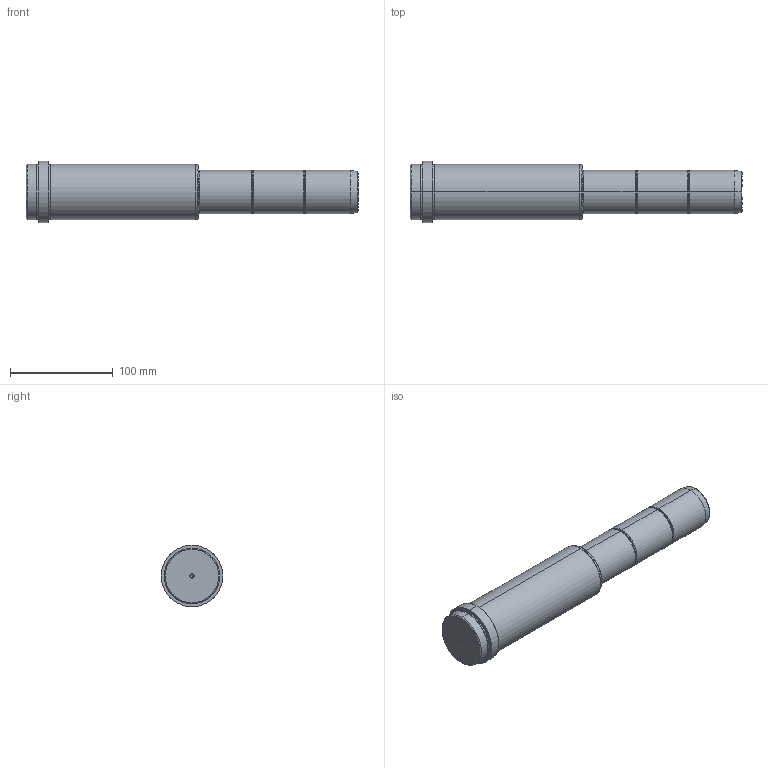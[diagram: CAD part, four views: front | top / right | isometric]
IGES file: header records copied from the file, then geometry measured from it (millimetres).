
Start section: SolidWorks IGES FILE using analytic representation for surfaces
Global section: file name: D:\zzzzz\Delta\D03\42\D03 - 42x156x155.IGS; native system: SolidWorks 2004 by SolidWorks Corporation; preprocessor: Version 5.3; author: Hkn; date: 080327.160659; units: millimetre
Bounding box: 323 x 60 x 60 mm (x, y, z)
Surface area: 54765.1 mm2 (no closed solid volume)
Topology: 0 solids, 0 shells, 56 faces, 1152 edges, 1148 vertices
Faces by surface type: revolution 36, bspline 20
